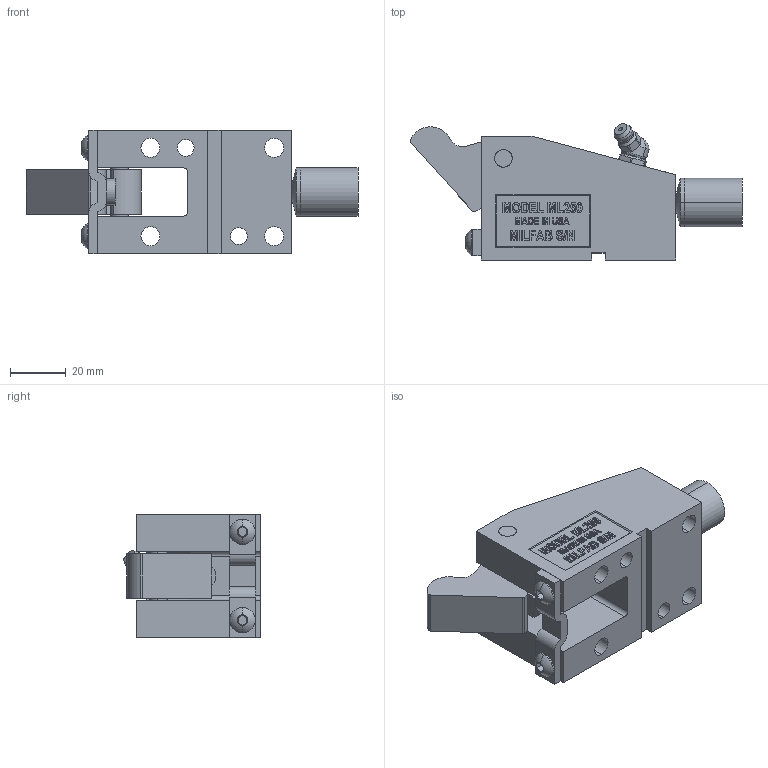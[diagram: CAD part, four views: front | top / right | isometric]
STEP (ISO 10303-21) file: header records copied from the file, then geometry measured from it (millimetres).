
FILE_DESCRIPTION (( 'STEP AP214' ), '1' );
FILE_NAME ('ML25045-O.STEP', '2014-01-07T20:11:22', ( 'user' ), ( '' ), 'SwSTEP 2.0', 'SolidWorks 2009', '' );
FILE_SCHEMA (( 'AUTOMOTIVE_DESIGN' ));
Length unit declared in the file: inch
Products named in the file (1): ML25045-O
Bounding box: 119.25 x 48.96 x 44.45 mm (x, y, z)
Surface area: 30920.3 mm2 (no closed solid volume)
Topology: 0 solids, 11 shells, 523 faces, 1454 edges, 969 vertices
Faces by surface type: plane 323, bspline 87, cylinder 75, torus 20, cone 18
Entity records: 28545 total; most frequent: CARTESIAN_POINT 8991, ORIENTED_EDGE 2772, DIRECTION 2252, EDGE_CURVE 1452, VECTOR 974, LINE 974, VERTEX_POINT 969, AXIS2_PLACEMENT_3D 639
